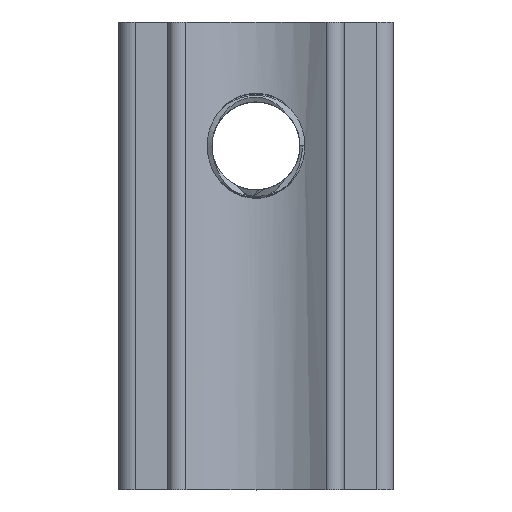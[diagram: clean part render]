
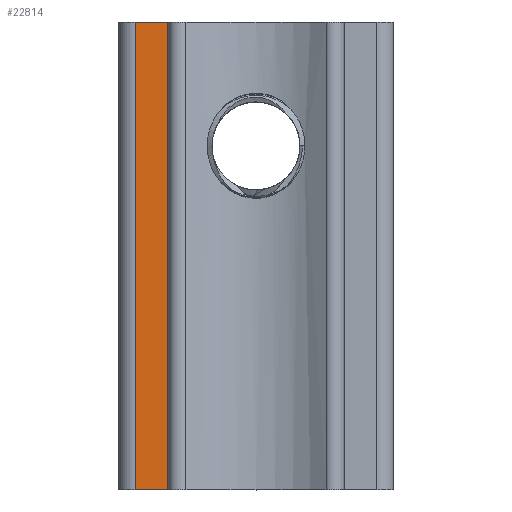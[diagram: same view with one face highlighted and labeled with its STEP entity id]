
A CAD part, top view. The second image highlights one B-rep face of the part: STEP entity #22814.
In plain terms, the highlighted planar face has unit normal (0, 0, 1).
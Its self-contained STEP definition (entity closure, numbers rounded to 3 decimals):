
#937 = PLANE('',#938);
#938 = AXIS2_PLACEMENT_3D('',#939,#940,#941);
#939 = CARTESIAN_POINT('',(12.85,-8.5,7.131));
#940 = DIRECTION('',(0.,1.,0.));
#941 = DIRECTION('',(0.,-0.,1.));
#965 = CYLINDRICAL_SURFACE('',#966,0.6);
#966 = AXIS2_PLACEMENT_3D('',#967,#968,#969);
#967 = CARTESIAN_POINT('',(-4.397,-8.5,-0.6));
#968 = DIRECTION('',(-0.,-1.,-0.));
#969 = DIRECTION('',(0.,0.,1.));
#992 = PLANE('',#993);
#993 = AXIS2_PLACEMENT_3D('',#994,#995,#996);
#994 = CARTESIAN_POINT('',(12.85,8.5,7.131));
#995 = DIRECTION('',(0.,1.,0.));
#996 = DIRECTION('',(0.,-0.,1.));
#22564 = VERTEX_POINT('',#22565);
#22565 = CARTESIAN_POINT('',(-3.2,8.5,0.));
#22581 = PLANE('',#22582);
#22582 = AXIS2_PLACEMENT_3D('',#22583,#22584,#22585);
#22583 = CARTESIAN_POINT('',(-3.2,-8.5,0.));
#22584 = DIRECTION('',(-1.,0.,0.));
#22585 = DIRECTION('',(0.,0.,1.));
#22766 = VERTEX_POINT('',#22767);
#22767 = CARTESIAN_POINT('',(-4.397,8.5,0.));
#22789 = EDGE_CURVE('',#22766,#22564,#22790,.T.);
#22790 = SURFACE_CURVE('',#22791,(#22795,#22802),.PCURVE_S1.);
#22791 = LINE('',#22792,#22793);
#22792 = CARTESIAN_POINT('',(-5.3,8.5,0.));
#22793 = VECTOR('',#22794,1.);
#22794 = DIRECTION('',(1.,0.,0.));
#22795 = PCURVE('',#992,#22796);
#22796 = DEFINITIONAL_REPRESENTATION('',(#22797),#22801);
#22797 = LINE('',#22798,#22799);
#22798 = CARTESIAN_POINT('',(-7.131,-18.15));
#22799 = VECTOR('',#22800,1.);
#22800 = DIRECTION('',(0.,1.));
#22801 = ( GEOMETRIC_REPRESENTATION_CONTEXT(2) 
PARAMETRIC_REPRESENTATION_CONTEXT() REPRESENTATION_CONTEXT('2D SPACE',''
  ) );
#22802 = PCURVE('',#22803,#22808);
#22803 = PLANE('',#22804);
#22804 = AXIS2_PLACEMENT_3D('',#22805,#22806,#22807);
#22805 = CARTESIAN_POINT('',(-5.3,-8.5,0.));
#22806 = DIRECTION('',(0.,0.,1.));
#22807 = DIRECTION('',(1.,0.,-0.));
#22808 = DEFINITIONAL_REPRESENTATION('',(#22809),#22813);
#22809 = LINE('',#22810,#22811);
#22810 = CARTESIAN_POINT('',(0.,17.));
#22811 = VECTOR('',#22812,1.);
#22812 = DIRECTION('',(1.,0.));
#22813 = ( GEOMETRIC_REPRESENTATION_CONTEXT(2) 
PARAMETRIC_REPRESENTATION_CONTEXT() REPRESENTATION_CONTEXT('2D SPACE',''
  ) );
#22814 = ADVANCED_FACE('',(#22815),#22803,.T.);
#22815 = FACE_BOUND('',#22816,.T.);
#22816 = EDGE_LOOP('',(#22817,#22818,#22841,#22864));
#22817 = ORIENTED_EDGE('',*,*,#22789,.F.);
#22818 = ORIENTED_EDGE('',*,*,#22819,.F.);
#22819 = EDGE_CURVE('',#22820,#22766,#22822,.T.);
#22820 = VERTEX_POINT('',#22821);
#22821 = CARTESIAN_POINT('',(-4.397,-8.5,0.));
#22822 = SURFACE_CURVE('',#22823,(#22827,#22834),.PCURVE_S1.);
#22823 = LINE('',#22824,#22825);
#22824 = CARTESIAN_POINT('',(-4.397,-8.5,0.));
#22825 = VECTOR('',#22826,1.);
#22826 = DIRECTION('',(0.,1.,0.));
#22827 = PCURVE('',#22803,#22828);
#22828 = DEFINITIONAL_REPRESENTATION('',(#22829),#22833);
#22829 = LINE('',#22830,#22831);
#22830 = CARTESIAN_POINT('',(0.903,0.));
#22831 = VECTOR('',#22832,1.);
#22832 = DIRECTION('',(0.,1.));
#22833 = ( GEOMETRIC_REPRESENTATION_CONTEXT(2) 
PARAMETRIC_REPRESENTATION_CONTEXT() REPRESENTATION_CONTEXT('2D SPACE',''
  ) );
#22834 = PCURVE('',#965,#22835);
#22835 = DEFINITIONAL_REPRESENTATION('',(#22836),#22840);
#22836 = LINE('',#22837,#22838);
#22837 = CARTESIAN_POINT('',(0.,0.));
#22838 = VECTOR('',#22839,1.);
#22839 = DIRECTION('',(0.,-1.));
#22840 = ( GEOMETRIC_REPRESENTATION_CONTEXT(2) 
PARAMETRIC_REPRESENTATION_CONTEXT() REPRESENTATION_CONTEXT('2D SPACE',''
  ) );
#22841 = ORIENTED_EDGE('',*,*,#22842,.T.);
#22842 = EDGE_CURVE('',#22820,#22843,#22845,.T.);
#22843 = VERTEX_POINT('',#22844);
#22844 = CARTESIAN_POINT('',(-3.2,-8.5,0.));
#22845 = SURFACE_CURVE('',#22846,(#22850,#22857),.PCURVE_S1.);
#22846 = LINE('',#22847,#22848);
#22847 = CARTESIAN_POINT('',(-5.3,-8.5,0.));
#22848 = VECTOR('',#22849,1.);
#22849 = DIRECTION('',(1.,0.,0.));
#22850 = PCURVE('',#22803,#22851);
#22851 = DEFINITIONAL_REPRESENTATION('',(#22852),#22856);
#22852 = LINE('',#22853,#22854);
#22853 = CARTESIAN_POINT('',(0.,0.));
#22854 = VECTOR('',#22855,1.);
#22855 = DIRECTION('',(1.,0.));
#22856 = ( GEOMETRIC_REPRESENTATION_CONTEXT(2) 
PARAMETRIC_REPRESENTATION_CONTEXT() REPRESENTATION_CONTEXT('2D SPACE',''
  ) );
#22857 = PCURVE('',#937,#22858);
#22858 = DEFINITIONAL_REPRESENTATION('',(#22859),#22863);
#22859 = LINE('',#22860,#22861);
#22860 = CARTESIAN_POINT('',(-7.131,-18.15));
#22861 = VECTOR('',#22862,1.);
#22862 = DIRECTION('',(0.,1.));
#22863 = ( GEOMETRIC_REPRESENTATION_CONTEXT(2) 
PARAMETRIC_REPRESENTATION_CONTEXT() REPRESENTATION_CONTEXT('2D SPACE',''
  ) );
#22864 = ORIENTED_EDGE('',*,*,#22865,.T.);
#22865 = EDGE_CURVE('',#22843,#22564,#22866,.T.);
#22866 = SURFACE_CURVE('',#22867,(#22871,#22878),.PCURVE_S1.);
#22867 = LINE('',#22868,#22869);
#22868 = CARTESIAN_POINT('',(-3.2,-8.5,0.));
#22869 = VECTOR('',#22870,1.);
#22870 = DIRECTION('',(0.,1.,0.));
#22871 = PCURVE('',#22803,#22872);
#22872 = DEFINITIONAL_REPRESENTATION('',(#22873),#22877);
#22873 = LINE('',#22874,#22875);
#22874 = CARTESIAN_POINT('',(2.1,0.));
#22875 = VECTOR('',#22876,1.);
#22876 = DIRECTION('',(0.,1.));
#22877 = ( GEOMETRIC_REPRESENTATION_CONTEXT(2) 
PARAMETRIC_REPRESENTATION_CONTEXT() REPRESENTATION_CONTEXT('2D SPACE',''
  ) );
#22878 = PCURVE('',#22581,#22879);
#22879 = DEFINITIONAL_REPRESENTATION('',(#22880),#22884);
#22880 = LINE('',#22881,#22882);
#22881 = CARTESIAN_POINT('',(0.,0.));
#22882 = VECTOR('',#22883,1.);
#22883 = DIRECTION('',(0.,1.));
#22884 = ( GEOMETRIC_REPRESENTATION_CONTEXT(2) 
PARAMETRIC_REPRESENTATION_CONTEXT() REPRESENTATION_CONTEXT('2D SPACE',''
  ) );
